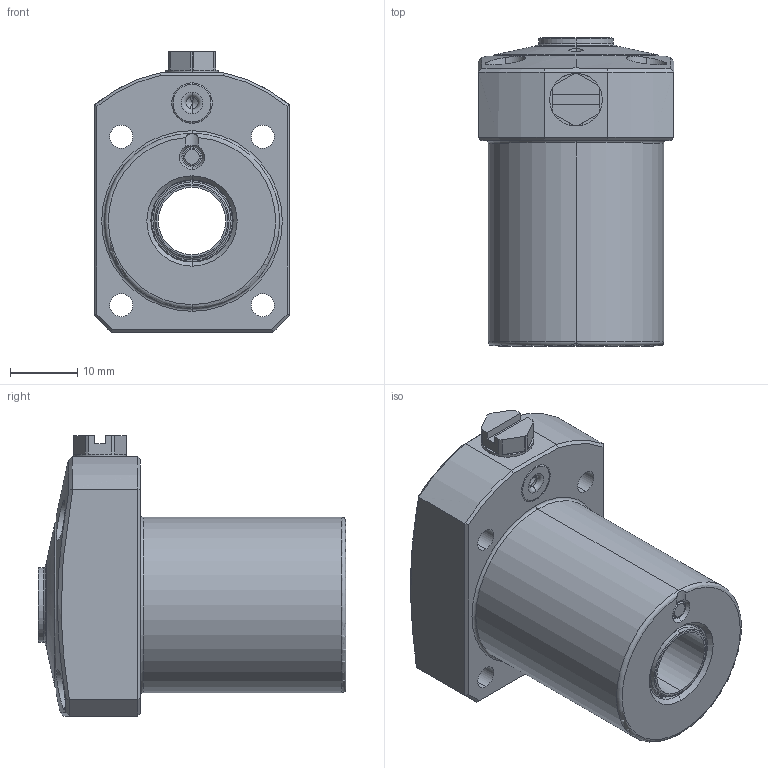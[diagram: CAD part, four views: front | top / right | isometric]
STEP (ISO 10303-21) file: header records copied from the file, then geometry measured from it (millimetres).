
FILE_DESCRIPTION(/* description */ (''),/* implementation_level */ '2;1');
FILE_NAME(/* name */ 'FNE26-C.stp',/* time_stamp */ '2025-10-27T13:57:00+08:00',/* author */ (''),/* organization */ (''),/* preprocessor_version */ 'ST-DEVELOPER v16.7',/* originating_system */ 'SIEMENS PLM Software NX 12.0',/* authorisation */ '');
FILE_SCHEMA (('AUTOMOTIVE_DESIGN { 1 0 10303 214 3 1 1 1 }'));
Length unit declared in the file: millimetre
Products named in the file (5): FNE-26-01; FNE-26-02; FNE-26-03; FNE-26-04; WNA0403-G-D_step
Assembly tree (4 placements, depth 2):
  WNA0403-G-D_step
    FNE-26-04
    FNE-26-03
    FNE-26-02
    FNE-26-01
Bounding box: 29 x 45.7 x 41.6 mm (x, y, z)
Volume: 25314.1 mm3; surface area: 8489.8 mm2
Topology: 4 solids, 4 shells, 163 faces, 374 edges, 227 vertices
Faces by surface type: cylinder 53, plane 50, cone 32, torus 22, bspline 6
Entity records: 5712 total; most frequent: CARTESIAN_POINT 1885, DIRECTION 821, ORIENTED_EDGE 736, EDGE_CURVE 368, AXIS2_PLACEMENT_3D 338, VERTEX_POINT 227, EDGE_LOOP 189, CIRCLE 176
